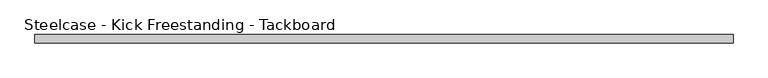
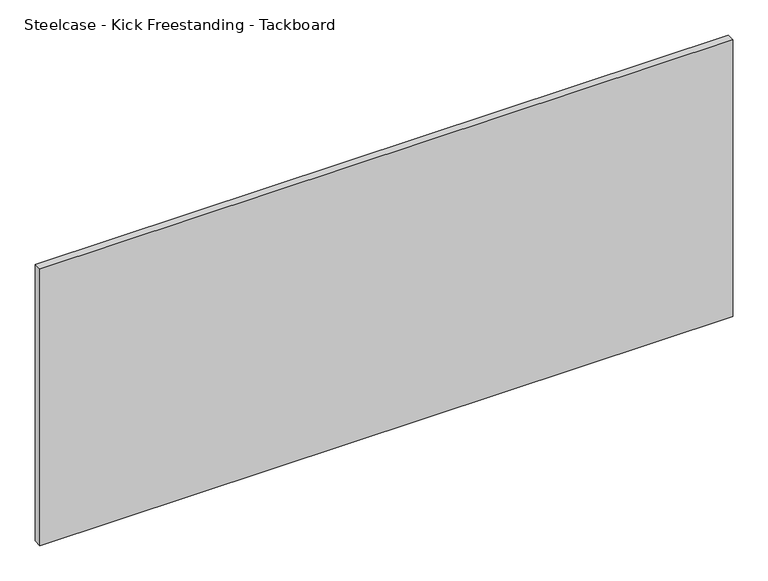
"""IFC4 building model written with IfcOpenShell, lengths in millimetres: furniture geometry, Steelcase - Kick Freestanding - Tackboard : 48W x 19H."""

from ifc_helpers import new_model, si_unit, frame, origin, place, context, project, spatial, polyline, outline, extrude, source, transform, mapped, element, save


def steelcase_kick_freestanding_tackboard_56132c99(model_context):
    return source(origin(), model_context, "Body", "SweptSolid", [
        extrude(outline(polyline([(38.1, -48.89754), (38.1, -34.92754), (1181.1, -34.92754), (1181.1, -48.89754), (38.1, -48.89754)])), frame((0.0, 0.0, 723.9), z_axis=(0.0, 0.0, 1.0), x_axis=(1.0, 0.0, 0.0)), (0.0, 0.0, 1.0), 482.6),
    ])


if __name__ == "__main__":
    model = new_model("IFC4")
    model_context = context("Model", 3, world=origin())
    ifc_project = project(units=[si_unit("LENGTHUNIT", "METRE", prefix="MILLI")], contexts=[model_context])
    site = spatial("IfcSite", under=ifc_project)
    building = spatial("IfcBuilding", under=site)
    placement = place(None, origin())
    steelcase_kick_freestanding_tackboard_shape = steelcase_kick_freestanding_tackboard_56132c99(model_context)
    element("IfcFurniture", 1, ObjectType="Steelcase - Kick Freestanding - Tackboard : 48W x 19H", at=placement, inside=building, context=model_context, shape_type="MappedRepresentation", body=[
        mapped(steelcase_kick_freestanding_tackboard_shape, transform((0.0, 0.0, 0.0), x_axis=(1.0, 0.0, 0.0), y_axis=(0.0, 1.0, 0.0), z_axis=(0.0, 0.0, 1.0))),
    ])
    save(model, "model.ifc")
